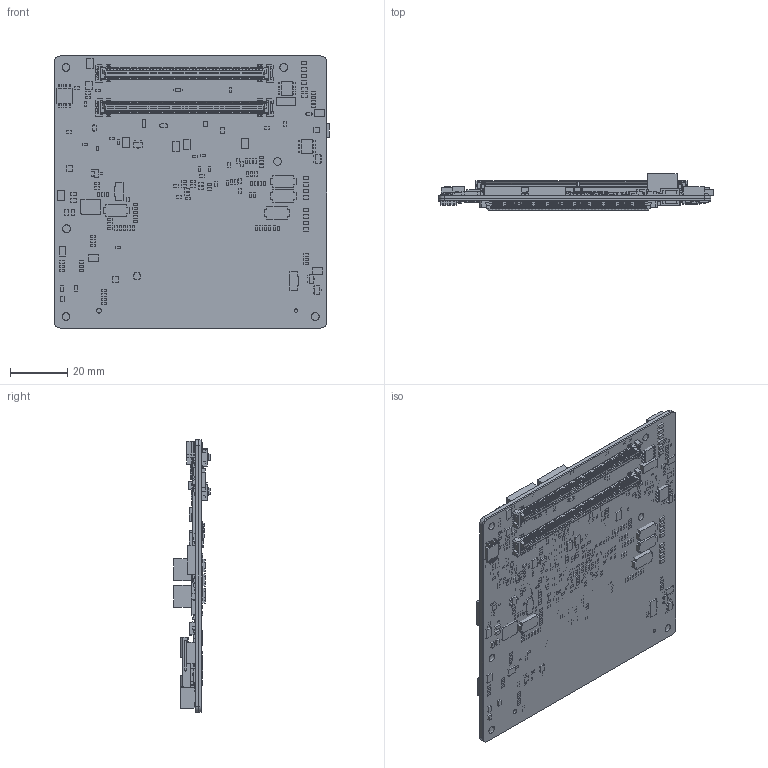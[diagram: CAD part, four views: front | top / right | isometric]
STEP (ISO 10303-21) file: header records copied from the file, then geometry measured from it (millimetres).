
FILE_DESCRIPTION((''),'2;1');
FILE_NAME('0_ESM-ASLC_ASM','2024-12-19T11:15:41',('arvin_tsai'),(''),'CREO PARAMETRIC BY PTC INC, 2023294','CREO PARAMETRIC BY PTC INC, 2023294','');
FILE_SCHEMA(('AP242_MANAGED_MODEL_BASED_3D_ENGINEERING_MIM_LF { 1 0 10303 442 1 1 4 }'));
Products named in the file (76): ESM-ASLC-PCB; E16A38D1409H; E16712B0201H; E14S4009700H-1; ESM-ASLC_M; E14S3085700H; E0030000000; 0030000033; 30000033; E123133272AH; E1213101217H; E1213103004H; A-R1206; A-R0402; A-R0603; E0030100001; E121220102QH; E1212201513H; E1212201520H; E121220222BH; E121220102LH; E1213103000H; E118X633783H; E1301581741H; E1305032340H; E1301034041H; E1301034040H; E1300051640H; E1181X15780H; A-C0805; A-C0603; A-C0402; E1301005440H; E1301005442H; E1315013812H; E1315035110H; E14S3233000H; E1304400041H; E1304400047H; E1060700002H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
Assembly tree (1314 placements, depth 3):
  0_ESM-ASLC_ASM
    ESM-ASLC-PCB
    E16A38D1409H
    E16712B0201H  x2
    E14S4009700H-1
    ESM-ASLC_M_ASM
      ESM-ASLC_M
      E14S3085700H  x2
      E0030000000  x44
      0030000033  x5
      30000033
      E123133272AH
      E1213101217H  x2
      E1213103004H  x5
      A-R1206
      A-R0402  x576
      A-R0603  x17
      E0030100001  x8
      E121220102QH
      E1212201513H  x2
      E1212201520H
      E121220222BH
      E121220102LH  x2
      E1213103000H  x7
      E118X633783H  x5
      E1301581741H  x2
      E1305032340H
      E1301034041H  x2
      E1301034040H  x2
      E1300051640H  x8
      E1181X15780H
      A-C0805  x32
      A-C0603  x138
      A-C0402  x324
      E1301005440H
      E1301005442H  x2
      E1315013812H  x5
      E1315035110H
      E14S3233000H  x2
      E1304400041H
      E1304400047H
      E1060700002H  x47
      E1600020201R
      E123130256HH
      E14S5C13200H  x3
      E14S5F00801H  x7
      E14S5F10700H  x2
      E14S9068200H
      E1315013811H
      E1315065810H
      E14S5F15703H  x2
      E1672506110R
      E14S6399044H
      E14S6225163H
      E1315667510R  x2
      E14S4961700H  x3
      E1314716810H
      E14S6225252H
      E1315450310H  x3
      E14S3522300H  x3
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Bounding box: 95.98 x 12.7 x 95 mm (x, y, z)
Volume: 38239.4 mm3; surface area: 57095.5 mm2
Topology: 1313 solids, 1315 shells, 16981 faces, 40375 edges, 26573 vertices
Faces by surface type: plane 16240, cylinder 652, extrusion 44, torus 20, cone 13, bspline 12
Entity records: 199150 total; most frequent: CARTESIAN_POINT 37577, DIRECTION 32270, ORIENTED_EDGE 30030, EDGE_CURVE 15015, VECTOR 13884, LINE 13840, VERTEX_POINT 9821, AXIS2_PLACEMENT_3D 9193
